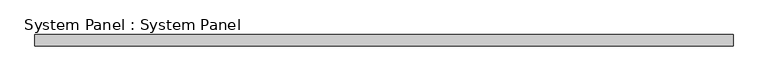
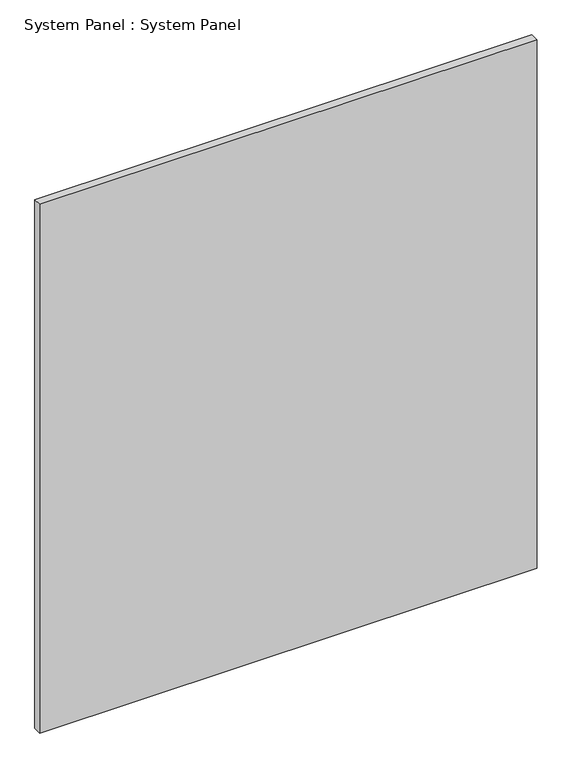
"""IFC4 building model written with IfcOpenShell, lengths in millimetres: plate geometry, System Panel : System Panel."""

from ifc_helpers import new_model, si_unit, origin, origin_with_axes, place, context, project, spatial, polyline, outline, extrude, source, transform, mapped, element, save


def system_panel_system_panel_380796df(model_context):
    return source(origin(), model_context, "Body", "SweptSolid", [
        extrude(outline(polyline([(771.525, 19.05), (-771.525, 19.05), (-771.525, 44.45), (771.525, 44.45), (771.525, 19.05)])), origin_with_axes(), (0.0, 0.0, 1.0), 1733.55),
    ])


if __name__ == "__main__":
    model = new_model("IFC4")
    model_context = context("Model", 3, world=origin())
    ifc_project = project(units=[si_unit("LENGTHUNIT", "METRE", prefix="MILLI")], contexts=[model_context])
    site = spatial("IfcSite", under=ifc_project)
    building = spatial("IfcBuilding", under=site)
    placement = place(None, origin())
    system_panel_system_panel_shape = system_panel_system_panel_380796df(model_context)
    element("IfcPlate", 1, ObjectType="System Panel : System Panel", at=placement, inside=building, context=model_context, shape_type="MappedRepresentation", body=[
        mapped(system_panel_system_panel_shape, transform((0.0, 0.0, 0.0), x_axis=(1.0, 0.0, 0.0), y_axis=(0.0, 1.0, 0.0), z_axis=(0.0, 0.0, 1.0))),
    ])
    save(model, "model.ifc")
